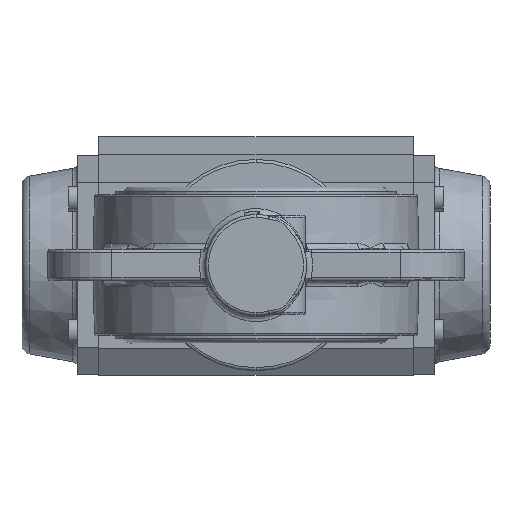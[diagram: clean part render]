
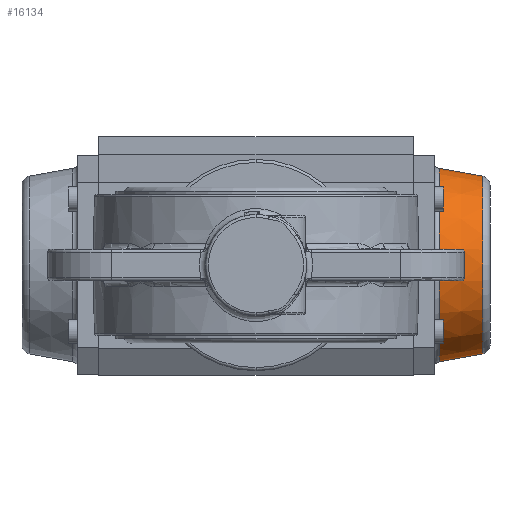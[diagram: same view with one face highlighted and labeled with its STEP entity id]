
A CAD part, front view. The second image highlights one B-rep face of the part: STEP entity #16134.
In plain terms, the highlighted conical face has half-angle 10.197 degrees and reference radius 32.032 mm.
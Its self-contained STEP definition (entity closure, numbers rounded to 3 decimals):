
#215 = LINE ( 'NONE', #34438, #22583 ) ;
#383 = FACE_OUTER_BOUND ( 'NONE', #4420, .T. ) ;
#782 = EDGE_CURVE ( 'NONE', #34040, #42290, #5390, .T. ) ;
#1261 = CARTESIAN_POINT ( 'NONE',  ( 0., 0., -60.646 ) ) ;
#2043 = VECTOR ( 'NONE', #36645, 1000. ) ;
#2254 = CARTESIAN_POINT ( 'NONE',  ( 32.032, 0., -60.646 ) ) ;
#3701 = CARTESIAN_POINT ( 'NONE',  ( -29.444, 0., -75.031 ) ) ;
#3714 = CARTESIAN_POINT ( 'NONE',  ( 0., 0., -75.031 ) ) ;
#4420 = EDGE_LOOP ( 'NONE', ( #25900, #22698, #12923, #10305 ) ) ;
#5107 = CONICAL_SURFACE ( 'NONE', #23722, 32.032, 0.178 ) ;
#5390 = CIRCLE ( 'NONE', #35899, 32.032 ) ;
#6647 = EDGE_CURVE ( 'NONE', #32068, #33121, #31136, .T. ) ;
#7075 = DIRECTION ( 'NONE',  ( -1., 0., 0. ) ) ;
#10305 = ORIENTED_EDGE ( 'NONE', *, *, #10561, .F. ) ;
#10561 = EDGE_CURVE ( 'NONE', #33121, #42290, #10885, .T. ) ;
#10885 = LINE ( 'NONE', #16878, #2043 ) ;
#12923 = ORIENTED_EDGE ( 'NONE', *, *, #782, .T. ) ;
#14687 = DIRECTION ( 'NONE',  ( -1., 0., 0. ) ) ;
#16134 = ADVANCED_FACE ( 'NONE', ( #383 ), #5107, .T. ) ;
#16878 = CARTESIAN_POINT ( 'NONE',  ( -32.032, 0., -60.646 ) ) ;
#17988 = DIRECTION ( 'NONE',  ( 0.177, 0., 0.984 ) ) ;
#18612 = DIRECTION ( 'NONE',  ( 0., 0., -1. ) ) ;
#22583 = VECTOR ( 'NONE', #17988, 1000. ) ;
#22698 = ORIENTED_EDGE ( 'NONE', *, *, #31939, .T. ) ;
#23722 = AXIS2_PLACEMENT_3D ( 'NONE', #1261, #27120, #14687 ) ;
#25900 = ORIENTED_EDGE ( 'NONE', *, *, #6647, .F. ) ;
#26948 = DIRECTION ( 'NONE',  ( 0., 0., -1. ) ) ;
#27120 = DIRECTION ( 'NONE',  ( 0., 0., 1. ) ) ;
#29087 = AXIS2_PLACEMENT_3D ( 'NONE', #3714, #26948, #7075 ) ;
#31136 = CIRCLE ( 'NONE', #29087, 29.444 ) ;
#31939 = EDGE_CURVE ( 'NONE', #32068, #34040, #215, .T. ) ;
#32068 = VERTEX_POINT ( 'NONE', #38342 ) ;
#33121 = VERTEX_POINT ( 'NONE', #3701 ) ;
#34040 = VERTEX_POINT ( 'NONE', #2254 ) ;
#34438 = CARTESIAN_POINT ( 'NONE',  ( 32.032, 0., -60.646 ) ) ;
#35899 = AXIS2_PLACEMENT_3D ( 'NONE', #38392, #18612, #41710 ) ;
#36645 = DIRECTION ( 'NONE',  ( -0.177, 0., 0.984 ) ) ;
#38342 = CARTESIAN_POINT ( 'NONE',  ( 29.444, 0., -75.031 ) ) ;
#38392 = CARTESIAN_POINT ( 'NONE',  ( 0., 0., -60.646 ) ) ;
#41372 = CARTESIAN_POINT ( 'NONE',  ( -32.032, 0., -60.646 ) ) ;
#41710 = DIRECTION ( 'NONE',  ( -1., 0., 0. ) ) ;
#42290 = VERTEX_POINT ( 'NONE', #41372 ) ;
